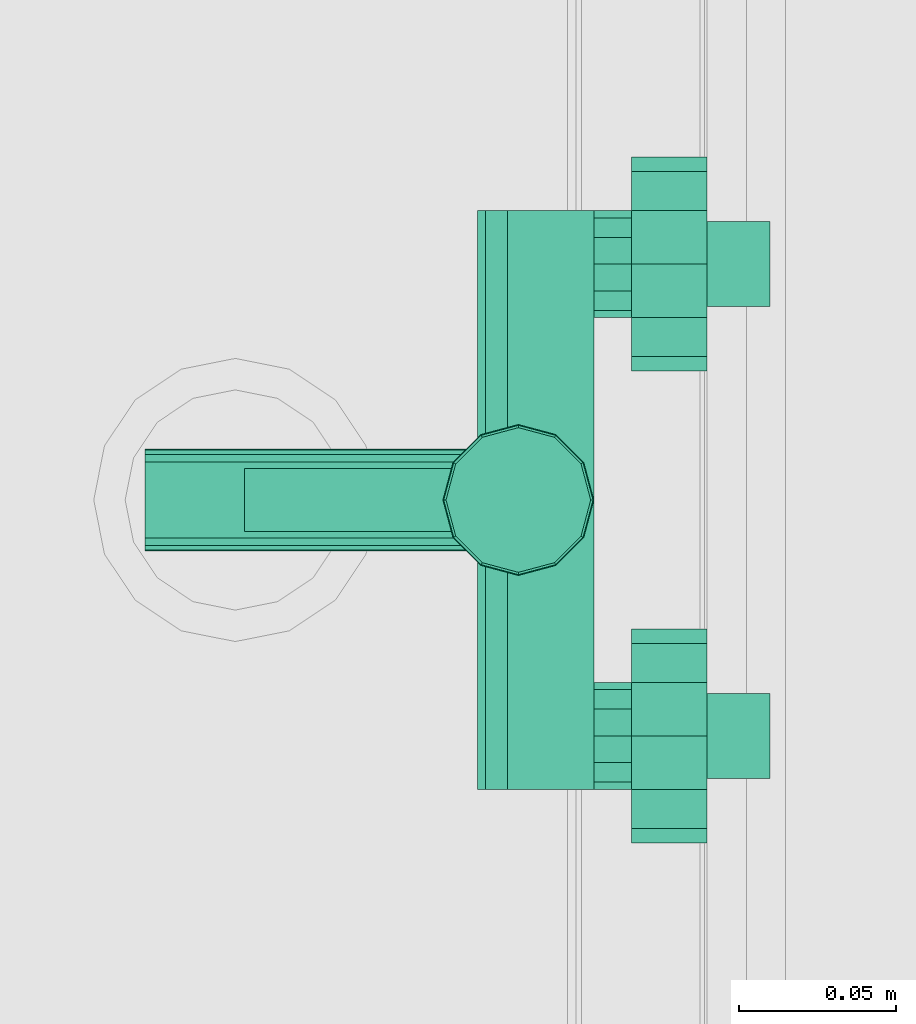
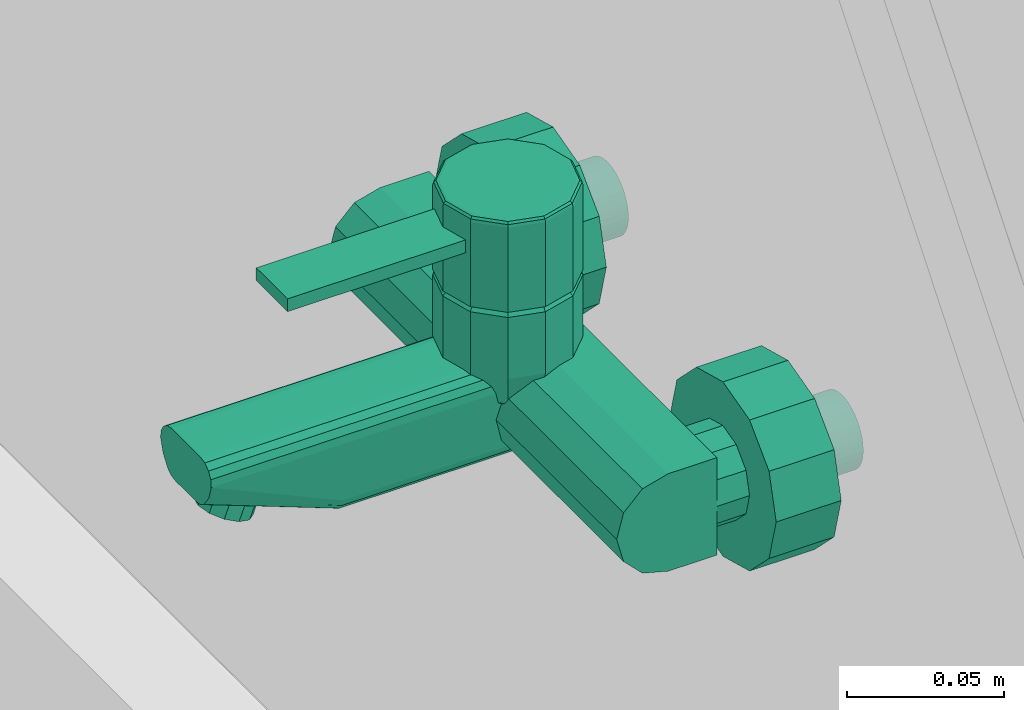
# One storey, part 109 of 137: 1 flow storage device.
"""IFC2X3 building model written with IfcOpenShell, lengths in millimetres."""

from ifc_helpers import new_model, entity, si_unit, converted_unit, derived_unit, money_unit, direction, frame, origin_with_axes, place, context, subcontext, project, spatial, open_shell, faceted_brep, surface_model, source, transform, mapped, type_object, type_shapes, element, save


model = new_model("IFC2X3")

# Units and contexts
model_context = context("Model", 3, precision=0.01, world=origin_with_axes(), true_north=direction((0.0, 1.0)))
body_context = subcontext(model_context, "Body", "Model", "MODEL_VIEW")
ifc_project = project(units=[si_unit("LENGTHUNIT", "METRE", prefix="MILLI"), si_unit("AREAUNIT", "SQUARE_METRE"), si_unit("VOLUMEUNIT", "CUBIC_METRE"), converted_unit("PLANEANGLEUNIT", "DEGREE", entity("IfcPlaneAngleMeasure", 0.0174532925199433), si_unit("PLANEANGLEUNIT", "RADIAN"), dimensions=[0, 0, 0, 0, 0, 0, 0]), money_unit("EUR"), converted_unit("TIMEUNIT", "Year", entity("IfcTimeMeasure", 31556926.0), si_unit("TIMEUNIT", "SECOND"), dimensions=[0, 0, 1, 0, 0, 0, 0]), si_unit("MASSUNIT", "GRAM", prefix="KILO"), si_unit("THERMODYNAMICTEMPERATUREUNIT", "DEGREE_CELSIUS"), si_unit("LUMINOUSINTENSITYUNIT", "LUMEN"), si_unit("ENERGYUNIT", "JOULE", prefix="MEGA"), derived_unit("THERMALCONDUCTANCEUNIT", [(si_unit("POWERUNIT", "WATT"), 1), (si_unit("LENGTHUNIT", "METRE"), -1), (si_unit("THERMODYNAMICTEMPERATUREUNIT", "KELVIN"), -1)]), derived_unit("SPECIFICHEATCAPACITYUNIT", [(si_unit("ENERGYUNIT", "JOULE"), 1), (si_unit("MASSUNIT", "GRAM", prefix="KILO"), -1), (si_unit("THERMODYNAMICTEMPERATUREUNIT", "KELVIN"), -1)]), derived_unit("MASSDENSITYUNIT", [(si_unit("MASSUNIT", "GRAM", prefix="KILO"), 1), (si_unit("VOLUMEUNIT", "CUBIC_METRE"), -1)])], contexts=[model_context])

# Site, building, storey
site_placement = place(None, origin_with_axes())
site = spatial("IfcSite", under=ifc_project, at=site_placement, Name="Site", CompositionType="ELEMENT")
building_placement = place(site_placement, origin_with_axes())
building = spatial("IfcBuilding", under=site, at=building_placement, Name="Naam gebouw", CompositionType="ELEMENT")
storey_placement = place(building_placement, frame((0.0, 0.0, 3960.0), z_axis=(0.0, 0.0, 1.0), x_axis=(1.0, 0.0, 0.0)))
storey = spatial("IfcBuildingStorey", under=building, at=storey_placement, Name="1e verdieping", CompositionType="ELEMENT", Elevation=3960.0)

# Flow storage device
tank_type = type_object("IfcTankType", Name="Kraan wand 26", PredefinedType="EXPANSION")
shared_shape = source(origin_with_axes(), body_context, "Body", "SurfaceModel", [
    faceted_brep([(-45.55513627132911, 0.0, 1183.0), (-58.00000000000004, 0.0, 1170.555136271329), (-75.00000000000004, 0.0, 1166.0), (-92.00000000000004, 0.0, 1170.555136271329), (-104.4448637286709, 0.0, 1183.0), (-109.0, 0.0, 1200.0), (-104.4448637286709, 0.0, 1217.0), (-92.0, 0.0, 1229.444863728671), (-75.0, 0.0, 1234.0), (-58.0, 0.0, 1229.444863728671), (-45.5551362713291, 0.0, 1217.0), (-41.00000000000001, 0.0, 1200.0), (-45.55513627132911, -24.0, 1183.0), (-58.00000000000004, -24.0, 1170.555136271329), (-75.00000000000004, -24.0, 1166.0), (-92.00000000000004, -24.0, 1170.555136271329), (-104.4448637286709, -24.0, 1183.0), (-109.0, -24.0, 1200.0), (-104.4448637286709, -24.0, 1217.0), (-92.0, -24.0, 1229.444863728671), (-75.0, -24.0, 1234.0), (-58.0, -24.0, 1229.444863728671), (-45.5551362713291, -24.0, 1217.0), (-41.00000000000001, -24.0, 1200.0)], [[[0, 1, 2, 3, 4, 5, 6, 7, 8, 9, 10, 11]], [[1, 0, 12, 13]], [[2, 1, 13, 14]], [[3, 2, 14, 15]], [[4, 3, 15, 16]], [[5, 4, 16, 17]], [[6, 5, 17, 18]], [[7, 6, 18, 19]], [[8, 7, 19, 20]], [[9, 8, 20, 21]], [[10, 9, 21, 22]], [[11, 10, 22, 23]], [[0, 11, 23, 12]], [[12, 23, 22, 21, 20, 19, 18, 17, 16, 15, 14, 13]]]),
    faceted_brep([(-60.27756813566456, -24.0, 1191.5), (-66.50000000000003, -24.0, 1185.277568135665), (-75.00000000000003, -24.0, 1183.0), (-83.50000000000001, -24.0, 1185.277568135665), (-89.72243186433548, -24.0, 1191.5), (-92.00000000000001, -24.0, 1200.0), (-89.72243186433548, -24.0, 1208.5), (-83.5, -24.0, 1214.722431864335), (-75.00000000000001, -24.0, 1217.0), (-66.5, -24.0, 1214.722431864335), (-60.27756813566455, -24.0, 1208.5), (-58.00000000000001, -24.0, 1200.0), (-60.27756813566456, -36.00000000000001, 1191.5), (-66.50000000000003, -36.00000000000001, 1185.277568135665), (-75.00000000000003, -36.00000000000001, 1183.0), (-83.50000000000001, -36.00000000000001, 1185.277568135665), (-89.72243186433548, -36.00000000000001, 1191.5), (-92.00000000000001, -36.00000000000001, 1200.0), (-89.72243186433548, -36.00000000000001, 1208.5), (-83.5, -36.0, 1214.722431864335), (-75.00000000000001, -36.0, 1217.0), (-66.5, -36.0, 1214.722431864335), (-60.27756813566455, -36.00000000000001, 1208.5), (-58.00000000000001, -36.00000000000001, 1200.0)], [[[0, 1, 2, 3, 4, 5, 6, 7, 8, 9, 10, 11]], [[1, 0, 12, 13]], [[2, 1, 13, 14]], [[3, 2, 14, 15]], [[4, 3, 15, 16]], [[5, 4, 16, 17]], [[6, 5, 17, 18]], [[7, 6, 18, 19]], [[8, 7, 19, 20]], [[9, 8, 20, 21]], [[10, 9, 21, 22]], [[11, 10, 22, 23]], [[0, 11, 23, 12]], [[12, 23, 22, 21, 20, 19, 18, 17, 16, 15, 14, 13]]]),
    faceted_brep([(45.55513627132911, 0.0, 1183.0), (41.00000000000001, 0.0, 1200.0), (45.5551362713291, 0.0, 1217.0), (58.0, 0.0, 1229.444863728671), (75.0, 0.0, 1234.0), (92.0, 0.0, 1229.444863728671), (104.4448637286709, 0.0, 1217.0), (109.0, 0.0, 1200.0), (104.4448637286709, 0.0, 1183.0), (92.00000000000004, 0.0, 1170.555136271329), (75.00000000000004, 0.0, 1166.0), (58.00000000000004, 0.0, 1170.555136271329), (45.55513627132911, -24.0, 1183.0), (41.00000000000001, -24.0, 1200.0), (45.5551362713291, -24.0, 1217.0), (58.0, -24.0, 1229.444863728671), (75.0, -24.0, 1234.0), (92.0, -24.0, 1229.444863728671), (104.4448637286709, -24.0, 1217.0), (109.0, -24.0, 1200.0), (104.4448637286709, -24.0, 1183.0), (92.00000000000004, -24.0, 1170.555136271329), (75.00000000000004, -24.0, 1166.0), (58.00000000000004, -24.0, 1170.555136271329)], [[[0, 1, 2, 3, 4, 5, 6, 7, 8, 9, 10, 11]], [[0, 12, 13, 1]], [[1, 13, 14, 2]], [[2, 14, 15, 3]], [[3, 15, 16, 4]], [[4, 16, 17, 5]], [[5, 17, 18, 6]], [[6, 18, 19, 7]], [[7, 19, 20, 8]], [[8, 20, 21, 9]], [[9, 21, 22, 10]], [[10, 22, 23, 11]], [[11, 23, 12, 0]], [[12, 23, 22, 21, 20, 19, 18, 17, 16, 15, 14, 13]]]),
    faceted_brep([(60.27756813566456, -24.0, 1191.5), (58.00000000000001, -24.0, 1200.0), (60.27756813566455, -24.0, 1208.5), (66.5, -24.0, 1214.722431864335), (75.00000000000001, -24.0, 1217.0), (83.5, -24.0, 1214.722431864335), (89.72243186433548, -24.0, 1208.5), (92.00000000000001, -24.0, 1200.0), (89.72243186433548, -24.0, 1191.5), (83.50000000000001, -24.0, 1185.277568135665), (75.00000000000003, -24.0, 1183.0), (66.50000000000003, -24.0, 1185.277568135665), (60.27756813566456, -36.00000000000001, 1191.5), (58.00000000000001, -36.00000000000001, 1200.0), (60.27756813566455, -36.00000000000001, 1208.5), (66.5, -36.0, 1214.722431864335), (75.00000000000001, -36.0, 1217.0), (83.5, -36.0, 1214.722431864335), (89.72243186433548, -36.00000000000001, 1208.5), (92.00000000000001, -36.00000000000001, 1200.0), (89.72243186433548, -36.00000000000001, 1191.5), (83.50000000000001, -36.00000000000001, 1185.277568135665), (75.00000000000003, -36.00000000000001, 1183.0), (66.50000000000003, -36.00000000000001, 1185.277568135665)], [[[0, 1, 2, 3, 4, 5, 6, 7, 8, 9, 10, 11]], [[0, 12, 13, 1]], [[1, 13, 14, 2]], [[2, 14, 15, 3]], [[3, 15, 16, 4]], [[4, 16, 17, 5]], [[5, 17, 18, 6]], [[6, 18, 19, 7]], [[7, 19, 20, 8]], [[8, 20, 21, 9]], [[9, 21, 22, 10]], [[10, 22, 23, 11]], [[11, 23, 12, 0]], [[12, 23, 22, 21, 20, 19, 18, 17, 16, 15, 14, 13]]]),
    faceted_brep([(22.39230484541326, -54.0, 1219.0), (23.56921938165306, -59.99999999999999, 1217.392304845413), (22.3801085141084, -63.5, 1216.454482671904), (92.0, -63.5, 1216.454482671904), (92.0, -54.0, 1219.0), (24.0, -59.99999999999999, 1219.0), (20.78460969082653, -72.0, 1219.0), (18.42264973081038, -70.63632178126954, 1208.821367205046), (18.65321248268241, -70.45448267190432, 1209.5), (92.0, -70.45448267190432, 1209.5), (92.0, -36.00000000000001, 1181.0), (92.0, -36.00000000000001, 1219.0), (92.0, -73.00000000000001, 1200.0), (92.0, -70.45448267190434, 1190.5), (92.0, -63.5, 1183.545517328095), (92.0, -54.00000000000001, 1181.0), (20.78460969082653, -47.99999999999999, 1219.0), (0.0, -36.00000000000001, 1219.0), (12.0, -39.21539030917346, 1219.0), (20.78460969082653, -47.99999999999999, 1243.0), (24.0, -59.99999999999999, 1243.0), (20.78460969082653, -72.0, 1243.0), (17.26794919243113, -71.12435565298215, 1207.0), (12.00000000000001, -80.78460969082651, 1219.0), (11.92314238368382, -80.65148839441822, 1218.426326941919), (12.07189135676, -80.49116546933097, 1218.39470631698), (14.42686544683, -77.50984837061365, 1216.68350539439), (15.88213414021, -75.13176694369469, 1214.16233412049), (16.18602173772, -73.76818909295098, 1211.26720650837), (15.73684210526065, -72.65546274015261, 1207.0), (15.6314139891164, -71.39272474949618, 1205.998432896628), (14.99999999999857, -73.00000000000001, 1200.0), (-92.0, -36.00000000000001, 1181.0), (-92.0, -36.00000000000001, 1219.0), (14.00000000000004, -70.45448267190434, 1190.5), (12.93483876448, -64.77581392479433, 1184.82133125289), (11.95567316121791, -63.5, 1183.545517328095), (13.65970594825, -67.22168918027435, 1187.26720650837), (9.206486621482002, -55.73480068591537, 1181.46483844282), (6.698167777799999, -54.00000000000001, 1181.0), (11.38167317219, -60.70880215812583, 1182.79761812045), (-6.698167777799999, -54.00000000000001, 1181.0), (-92.0, -54.00000000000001, 1181.0), (6.698167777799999, -128.7, 1181.0), (-6.698167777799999, -128.7, 1181.0), (0.0, -36.00000000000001, 1243.0), (12.0, -39.21539030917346, 1243.0), (19.05255888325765, -48.99999999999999, 1245.0), (22.0, -59.99999999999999, 1245.0), (19.05255888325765, -71.0, 1245.0), (12.00000000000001, -80.78460969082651, 1243.0), (9.224483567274, -81.52830707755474, 1219.0), (9.224483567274, -178.7, 1219.0), (12.07189135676, -178.7, 1218.39470631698), (14.42686544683, -178.7, 1216.68350539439), (15.88213414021, -178.7, 1214.16233412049), (16.18602173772, -178.7, 1211.26720650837), (13.65970594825, -128.7, 1187.26720650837), (-92.0, -54.0, 1219.0), (-92.0, -63.5, 1183.545517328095), (-92.0, -70.45448267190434, 1190.5), (-92.0, -73.00000000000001, 1200.0), (-92.0, -70.45448267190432, 1209.5), (-92.0, -63.5, 1216.454482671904), (-12.00000000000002, -39.21539030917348, 1219.0), (-22.39230484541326, -54.0, 1219.0), (-20.78460969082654, -48.00000000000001, 1219.0), (12.93483876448, -128.7, 1184.82133125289), (11.38167317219, -128.7, 1182.79761812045), (9.206486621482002, -128.7, 1181.46483844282), (-11.38167317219, -60.70880215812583, 1182.79761812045), (-11.95567316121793, -63.5, 1183.545517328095), (-9.206486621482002, -55.73480068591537, 1181.46483844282), (-6.698167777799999, -156.6122297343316, 1191.606647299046), (6.698167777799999, -156.6122297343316, 1191.606647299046), (5.000000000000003, -155.02481037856, 1191.003427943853), (0.0, -153.7724378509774, 1190.527526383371), (-4.999999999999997, -155.02481037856, 1191.003427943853), (-9.206486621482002, -128.7, 1181.46483844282), (-12.00000000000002, -39.21539030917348, 1243.0), (0.0, -38.00000000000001, 1245.0), (11.0, -40.94744111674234, 1245.0), (-20.78460969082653, -47.99999999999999, 1245.0), (-12.0, -39.21539030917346, 1245.0), (0.0, -36.00000000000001, 1245.0), (12.00000000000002, -39.21539030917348, 1245.0), (20.78460969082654, -48.00000000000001, 1245.0), (24.0, -60.00000000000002, 1245.0), (20.78460969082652, -72.00000000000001, 1245.0), (11.99999999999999, -80.78460969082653, 1245.0), (0.0, -83.99999999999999, 1245.0), (-12.00000000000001, -80.78460969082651, 1245.0), (-20.78460969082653, -72.0, 1245.0), (-24.0, -59.99999999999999, 1245.0), (11.00000000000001, -79.05255888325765, 1245.0), (-11.00000000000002, -40.94744111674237, 1245.0), (-19.05255888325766, -49.00000000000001, 1245.0), (-22.0, -60.00000000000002, 1245.0), (-19.05255888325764, -71.00000000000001, 1245.0), (-10.99999999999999, -79.05255888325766, 1245.0), (0.0, -81.99999999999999, 1245.0), (0.0, -83.99999999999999, 1243.0), (0.0, -83.99999999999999, 1219.0), (-15.88213414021, -178.7, 1214.16233412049), (-16.18602173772, -178.7, 1211.26720650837), (-14.65970594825, -178.7, 1206.26720650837), (-12.93483876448, -178.7, 1203.82133125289), (-11.38167317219, -178.7, 1201.79761812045), (-9.206486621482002, -178.7, 1200.46483844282), (-6.698167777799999, -178.7, 1200.0), (6.698167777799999, -178.7, 1200.0), (9.206486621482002, -178.7, 1200.46483844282), (11.38167317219, -178.7, 1201.79761812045), (12.93483876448, -178.7, 1203.82133125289), (14.65970594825, -178.7, 1206.26720650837), (-9.224483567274, -178.7, 1219.0), (-12.07189135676, -178.7, 1218.39470631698), (-14.42686544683, -178.7, 1216.68350539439), (-9.224483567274, -81.52830707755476, 1219.0), (-13.65970594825, -67.22168918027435, 1187.26720650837), (-14.00000000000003, -70.45448267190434, 1190.5), (-12.93483876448, -64.77581392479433, 1184.82133125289), (-14.99999999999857, -73.00000000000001, 1200.0), (-18.42264973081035, -70.63632178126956, 1208.821367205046), (-18.65321248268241, -70.45448267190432, 1209.5), (-15.63141398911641, -71.39272474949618, 1205.998432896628), (-17.26794919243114, -71.12435565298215, 1207.0), (-22.38010851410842, -63.5, 1216.454482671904), (-23.56921938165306, -60.00000000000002, 1217.392304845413), (-24.0, -60.00000000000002, 1219.0), (-24.0, -60.00000000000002, 1243.0), (-20.78460969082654, -48.00000000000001, 1243.0), (9.206486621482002, -160.1976250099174, 1193.433935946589), (8.660254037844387, -158.3256179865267, 1192.621346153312), (9.206486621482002, -165.7342214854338, 1195.537842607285), (10.0, -162.8044792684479, 1194.910741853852), (-11.38167317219, -128.7, 1182.79761812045), (-12.93483876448, -128.7, 1184.82133125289), (-9.206486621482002, -160.1976250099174, 1193.433935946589), (-8.660254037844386, -158.3256179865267, 1192.621346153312), (8.660254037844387, -160.222444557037, 1187.629697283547), (5.000000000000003, -156.8008991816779, 1186.329510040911), (0.0, -155.5485266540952, 1185.85360848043), (-4.999999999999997, -156.8008991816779, 1186.329510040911), (-8.660254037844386, -160.222444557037, 1187.629697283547), (-20.78460969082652, -47.99999999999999, 1278.0), (-12.0, -39.21539030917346, 1278.0), (0.0, -36.00000000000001, 1278.0), (12.00000000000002, -39.21539030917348, 1278.0), (20.78460969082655, -48.00000000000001, 1278.0), (24.0, -60.00000000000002, 1278.0), (20.78460969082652, -72.00000000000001, 1278.0), (11.99999999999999, -80.78460969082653, 1278.0), (0.0, -83.99999999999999, 1278.0), (0.0, -83.99999999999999, 1270.0), (10.0, -81.32050807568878, 1270.0), (10.0, -81.32050807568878, 1265.0), (0.0, -83.99999999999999, 1265.0), (-10.0, -81.32050807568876, 1265.0), (-10.0, -81.32050807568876, 1270.0), (-12.00000000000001, -80.78460969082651, 1278.0), (-20.78460969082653, -72.0, 1278.0), (-24.0, -59.99999999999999, 1278.0), (-20.78460969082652, -72.00000000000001, 1243.0), (-11.99999999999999, -80.78460969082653, 1243.0), (-11.99999999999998, -80.78460969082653, 1219.0), (-15.88213414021, -75.1317669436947, 1214.16233412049), (-16.18602173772, -73.76818909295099, 1211.26720650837), (-16.18602173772, -128.7, 1211.26720650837), (-13.65970594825, -128.7, 1187.26720650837), (-10.0, -162.8044792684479, 1194.910741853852), (-9.206486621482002, -165.7342214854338, 1195.537842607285), (-8.66025403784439, -167.6734537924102, 1196.173523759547), (-6.698167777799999, -169.6283175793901, 1196.552760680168), (0.0, -172.4681094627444, 1197.631881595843), (4.999999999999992, -171.2157369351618, 1197.155980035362), (6.698167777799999, -169.6283175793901, 1196.552760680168), (-5.000000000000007, -171.2157369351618, 1197.155980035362), (8.660254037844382, -167.6734537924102, 1196.173523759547), (-11.92314238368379, -80.65148839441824, 1218.426326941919), (-12.07189135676, -80.49116546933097, 1218.39470631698), (-14.42686544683, -77.50984837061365, 1216.68350539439), (-15.73684210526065, -72.65546274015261, 1207.0), (-20.78460969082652, -72.00000000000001, 1219.0), (10.0, -164.8963624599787, 1189.405786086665), (8.660254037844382, -169.5702803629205, 1191.181874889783), (-10.0, -164.8963624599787, 1189.405786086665), (4.999999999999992, -172.9918257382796, 1192.48206213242), (0.0, -174.2441982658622, 1192.957963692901), (-5.000000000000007, -172.9918257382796, 1192.48206213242), (-8.66025403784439, -169.5702803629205, 1191.181874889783), (-20.55255888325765, -48.13397459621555, 1279.0), (-11.86602540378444, -39.44744111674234, 1279.0), (0.0, -36.26794919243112, 1279.0), (11.86602540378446, -39.44744111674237, 1279.0), (20.55255888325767, -48.13397459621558, 1279.0), (23.73205080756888, -60.00000000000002, 1279.0), (20.55255888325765, -71.86602540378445, 1279.0), (11.86602540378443, -80.55255888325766, 1279.0), (10.0, -147.0, 1270.0), (-10.0, -147.0, 1270.0), (10.0, -147.0, 1265.0), (-10.0, -147.0, 1265.0), (0.0, -83.73205080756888, 1279.0), (-11.86602540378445, -80.55255888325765, 1279.0), (-20.55255888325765, -71.86602540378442, 1279.0), (-23.73205080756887, -59.99999999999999, 1279.0), (-19.91858428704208, -48.49999999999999, 1279.732050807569), (-11.5, -40.08141571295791, 1279.732050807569), (0.0, -37.00000000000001, 1279.732050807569), (11.50000000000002, -40.08141571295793, 1279.732050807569), (19.9185842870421, -48.50000000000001, 1279.732050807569), (23.0, -60.00000000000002, 1279.732050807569), (19.91858428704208, -71.50000000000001, 1279.732050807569), (11.49999999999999, -79.9185842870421, 1279.732050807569), (0.0, -82.99999999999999, 1279.732050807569), (-11.50000000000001, -79.91858428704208, 1279.732050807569), (-19.91858428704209, -71.5, 1279.732050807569), (-23.0, -59.99999999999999, 1279.732050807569), (-19.05255888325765, -48.99999999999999, 1280.0), (-11.0, -40.94744111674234, 1280.0), (0.0, -38.00000000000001, 1280.0), (11.00000000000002, -40.94744111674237, 1280.0), (19.05255888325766, -49.00000000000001, 1280.0), (22.0, -60.00000000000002, 1280.0), (19.05255888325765, -71.00000000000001, 1280.0), (10.99999999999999, -79.05255888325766, 1280.0), (0.0, -81.99999999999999, 1280.0), (-11.00000000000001, -79.05255888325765, 1280.0), (-19.05255888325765, -71.0, 1280.0), (-22.0, -59.99999999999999, 1280.0), (0.0, -60.0, 1280.0)], [[[0, 1, 2, 3, 4]], [[1, 0, 5]], [[2, 1, 5, 6, 7, 8]], [[2, 8, 9, 3]], [[10, 11, 4, 3, 9, 12, 13, 14, 15]], [[16, 0, 4, 11, 17, 18]], [[0, 16, 19, 20, 5]], [[20, 21, 6, 5]], [[22, 7, 6, 23, 24, 25, 26, 27, 28, 29]], [[30, 31, 12, 9, 8, 7, 22]], [[10, 32, 33, 17, 11]], [[31, 34, 13, 12]], [[35, 36, 14, 13, 34, 37]], [[38, 39, 15, 14, 36, 40]], [[41, 42, 32, 10, 15, 39, 43, 44]], [[18, 17, 45, 46]], [[16, 18, 46, 19]], [[19, 47, 48, 20]], [[20, 48, 49, 21]], [[21, 50, 23, 6]], [[23, 51, 24]], [[52, 53, 25, 24, 51]], [[53, 54, 26, 25]], [[54, 55, 27, 26]], [[56, 28, 27, 55]], [[31, 30, 29, 28, 56, 57, 37, 34]], [[30, 22, 29]], [[58, 33, 32, 42, 59, 60, 61, 62, 63]], [[64, 17, 33, 58, 65, 66]], [[36, 35, 67, 68, 40]], [[35, 37, 57, 67]], [[39, 38, 69, 43]], [[38, 40, 68, 69]], [[70, 71, 59, 42, 41, 72]], [[73, 44, 43, 74, 75, 76, 77]], [[72, 41, 44, 78]], [[17, 64, 79, 45]], [[45, 80, 81, 46]], [[46, 81, 47, 19]], [[82, 83, 84, 85, 86, 87, 88, 89, 90, 91, 92, 93], [94, 49, 48, 47, 81, 80, 95, 96, 97, 98, 99, 100]], [[21, 49, 94, 50]], [[101, 102, 51, 23, 50]], [[103, 104, 105, 106, 107, 108, 109, 110, 111, 112, 113, 114, 56, 55, 54, 53, 52, 115, 116, 117]], [[115, 52, 51, 102, 118]], [[56, 114, 57]], [[119, 120, 60, 59, 71, 121]], [[120, 122, 61, 60]], [[123, 124, 62, 61, 122, 125, 126]], [[124, 127, 63, 62]], [[128, 65, 58, 63, 127]], [[66, 65, 129, 130, 131]], [[64, 66, 131, 79]], [[112, 68, 67, 113]], [[114, 67, 57]], [[74, 43, 69, 132, 133]], [[132, 69, 68, 112, 111, 134, 135]], [[71, 70, 136, 137, 121]], [[70, 72, 78, 136]], [[138, 78, 44, 73, 139]], [[75, 74, 133, 140, 141]], [[142, 76, 75, 141]], [[143, 77, 76, 142]], [[139, 73, 77, 143, 144]], [[79, 95, 80, 45]], [[83, 82, 145, 146]], [[84, 83, 146, 147]], [[85, 84, 147, 148]], [[86, 85, 148, 149]], [[87, 86, 149, 150]], [[88, 87, 150, 151]], [[89, 88, 151, 152]], [[153, 154, 155, 156, 157, 90, 89, 152]], [[158, 159, 154, 153, 160, 91, 90, 157]], [[92, 91, 160, 161]], [[93, 92, 161, 162]], [[82, 93, 162, 145]], [[131, 96, 95, 79]], [[130, 97, 96, 131]], [[163, 98, 97, 130]], [[164, 99, 98, 163]], [[101, 100, 99, 164]], [[50, 94, 100, 101]], [[165, 118, 102, 101, 164]], [[104, 103, 166, 167, 168]], [[105, 104, 168]], [[106, 105, 169]], [[106, 137, 136, 107]], [[107, 136, 78, 138, 170, 171, 108]], [[171, 172, 173, 109, 108]], [[174, 175, 176, 110, 109, 173, 177]], [[176, 178, 134, 111, 110]], [[114, 113, 67]], [[116, 115, 118, 179, 180]], [[117, 116, 180, 181]], [[103, 117, 181, 166]], [[120, 119, 169, 168, 167, 182, 125, 122]], [[119, 121, 137, 169]], [[124, 123, 183, 129, 128, 127]], [[126, 125, 182]], [[123, 126, 182, 167, 166, 181, 180, 179, 165, 183]], [[65, 128, 129]], [[163, 130, 129, 183]], [[133, 132, 135, 184, 140]], [[135, 134, 178, 185, 184]], [[170, 138, 139, 144, 186]], [[140, 184, 185, 187, 188, 189, 190, 186, 144, 143, 142, 141]], [[146, 145, 191, 192]], [[147, 146, 192, 193]], [[148, 147, 193, 194]], [[149, 148, 194, 195]], [[150, 149, 195, 196]], [[151, 150, 196, 197]], [[152, 151, 197, 198]], [[199, 155, 154, 159, 200]], [[201, 156, 155, 199]], [[158, 157, 156, 201, 202]], [[153, 152, 198, 203]], [[200, 159, 158, 202]], [[160, 153, 203, 204]], [[161, 160, 204, 205]], [[162, 161, 205, 206]], [[145, 162, 206, 191]], [[164, 163, 183, 165]], [[165, 179, 118]], [[105, 168, 169]], [[106, 169, 137]], [[172, 171, 170, 186, 190]], [[177, 173, 172, 190, 189]], [[187, 175, 174, 188]], [[178, 176, 175, 187, 185]], [[188, 174, 177, 189]], [[192, 191, 207, 208]], [[193, 192, 208, 209]], [[194, 193, 209, 210]], [[195, 194, 210, 211]], [[196, 195, 211, 212]], [[197, 196, 212, 213]], [[198, 197, 213, 214]], [[199, 200, 202, 201]], [[203, 198, 214, 215]], [[204, 203, 215, 216]], [[205, 204, 216, 217]], [[206, 205, 217, 218]], [[191, 206, 218, 207]], [[208, 207, 219, 220]], [[209, 208, 220, 221]], [[210, 209, 221, 222]], [[211, 210, 222, 223]], [[212, 211, 223, 224]], [[213, 212, 224, 225]], [[214, 213, 225, 226]], [[215, 214, 226, 227]], [[216, 215, 227, 228]], [[217, 216, 228, 229]], [[218, 217, 229, 230]], [[207, 218, 230, 219]], [[220, 219, 231]], [[221, 220, 231]], [[222, 221, 231]], [[223, 222, 231]], [[224, 223, 231]], [[225, 224, 231]], [[226, 225, 231]], [[227, 226, 231]], [[228, 227, 231]], [[229, 228, 231]], [[230, 229, 231]], [[219, 230, 231]]]),
    surface_model("IfcShellBasedSurfaceModel", [(-75.0, 0.0, 1186.5), (-77.34425039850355, 0.0, 1186.705095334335), (-77.34425039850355, 20.0, 1186.705095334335), (-75.0, 20.0, 1186.5), (-79.61727193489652, 0.0, 1187.31414961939), (-79.61727193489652, 20.0, 1187.31414961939), (-72.65574960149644, 0.0, 1186.705095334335), (-72.65574960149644, 20.0, 1186.705095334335), (-81.74999999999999, 0.0, 1188.30865704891), (-81.74999999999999, 20.0, 1188.30865704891), (-70.38272806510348, 0.0, 1187.31414961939), (-70.38272806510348, 20.0, 1187.31414961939), (-83.67763273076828, 0.0, 1189.658400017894), (-83.67763273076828, 20.0, 1189.658400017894), (-68.25, 0.0, 1188.30865704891), (-68.25, 20.0, 1188.30865704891), (-85.34159998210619, 0.0, 1191.322367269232), (-85.34159998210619, 20.0, 1191.322367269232), (-66.32236726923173, 0.0, 1189.658400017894), (-66.32236726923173, 20.0, 1189.658400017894), (-86.69134295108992, 0.0, 1193.25), (-86.69134295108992, 20.0, 1193.25), (-64.65840001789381, 0.0, 1191.322367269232), (-64.65840001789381, 20.0, 1191.322367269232), (-87.68585038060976, 0.0, 1195.382728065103), (-87.68585038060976, 20.0, 1195.382728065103), (-63.30865704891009, 0.0, 1193.25), (-63.30865704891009, 20.0, 1193.25), (-88.2949046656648, 0.0, 1197.655749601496), (-88.2949046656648, 20.0, 1197.655749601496), (-62.31414961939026, 0.0, 1195.382728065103), (-62.31414961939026, 20.0, 1195.382728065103), (-88.5, 0.0, 1200.0), (-88.5, 20.0, 1200.0), (-61.7050953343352, 0.0, 1197.655749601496), (-61.7050953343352, 20.0, 1197.655749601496), (-88.2949046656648, 0.0, 1202.344250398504), (-88.2949046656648, 20.0, 1202.344250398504), (-61.50000000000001, 0.0, 1200.0), (-61.50000000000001, 20.0, 1200.0), (-87.68585038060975, 0.0, 1204.617271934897), (-87.68585038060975, 20.0, 1204.617271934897), (-61.7050953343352, 0.0, 1202.344250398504), (-61.7050953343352, 20.0, 1202.344250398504), (-86.69134295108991, 0.0, 1206.75), (-86.69134295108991, 20.0, 1206.75), (-62.31414961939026, 0.0, 1204.617271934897), (-62.31414961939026, 20.0, 1204.617271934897), (-85.34159998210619, 0.0, 1208.677632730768), (-85.34159998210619, 20.0, 1208.677632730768), (-63.30865704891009, 0.0, 1206.75), (-63.30865704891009, 20.0, 1206.75), (-83.67763273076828, 0.0, 1210.341599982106), (-83.67763273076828, 20.0, 1210.341599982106), (-64.6584000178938, 0.0, 1208.677632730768), (-64.6584000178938, 20.0, 1208.677632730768), (-81.74999999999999, 0.0, 1211.69134295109), (-81.74999999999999, 20.0, 1211.69134295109), (-66.32236726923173, 0.0, 1210.341599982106), (-66.32236726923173, 20.0, 1210.341599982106), (-79.61727193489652, 0.0, 1212.68585038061), (-79.61727193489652, 20.0, 1212.68585038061), (-68.25, 0.0, 1211.69134295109), (-68.25, 20.0, 1211.69134295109), (-77.34425039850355, 0.0, 1213.294904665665), (-77.34425039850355, 20.0, 1213.294904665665), (-70.38272806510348, 0.0, 1212.68585038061), (-70.38272806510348, 20.0, 1212.68585038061), (-75.0, 0.0, 1213.5), (-75.0, 20.0, 1213.5), (-72.65574960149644, 0.0, 1213.294904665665), (-72.65574960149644, 20.0, 1213.294904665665)], [open_shell([[[0, 1, 2, 3]], [[1, 4, 5, 2]], [[6, 0, 3, 7]], [[4, 8, 9, 5]], [[10, 6, 7, 11]], [[8, 12, 13, 9]], [[14, 10, 11, 15]], [[12, 16, 17, 13]], [[18, 14, 15, 19]], [[16, 20, 21, 17]], [[22, 18, 19, 23]], [[20, 24, 25, 21]], [[26, 22, 23, 27]], [[24, 28, 29, 25]], [[30, 26, 27, 31]], [[28, 32, 33, 29]], [[34, 30, 31, 35]], [[32, 36, 37, 33]], [[38, 34, 35, 39]], [[36, 40, 41, 37]], [[42, 38, 39, 43]], [[40, 44, 45, 41]], [[46, 42, 43, 47]], [[44, 48, 49, 45]], [[50, 46, 47, 51]], [[48, 52, 53, 49]], [[54, 50, 51, 55]], [[52, 56, 57, 53]], [[58, 54, 55, 59]], [[56, 60, 61, 57]], [[62, 58, 59, 63]], [[60, 64, 65, 61]], [[66, 62, 63, 67]], [[64, 68, 69, 65]], [[70, 66, 67, 71]], [[68, 70, 71, 69]]])]),
    surface_model("IfcShellBasedSurfaceModel", [(75.0, 0.0, 1186.5), (72.65574960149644, 0.0, 1186.705095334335), (72.65574960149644, 20.0, 1186.705095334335), (75.0, 20.0, 1186.5), (70.38272806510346, 0.0, 1187.31414961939), (70.38272806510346, 20.0, 1187.31414961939), (77.34425039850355, 0.0, 1186.705095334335), (77.34425039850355, 20.0, 1186.705095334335), (68.25, 0.0, 1188.30865704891), (68.25, 20.0, 1188.30865704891), (79.61727193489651, 0.0, 1187.31414961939), (79.61727193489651, 20.0, 1187.31414961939), (66.32236726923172, 0.0, 1189.658400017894), (66.32236726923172, 20.0, 1189.658400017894), (81.74999999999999, 0.0, 1188.30865704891), (81.74999999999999, 20.0, 1188.30865704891), (64.6584000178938, 0.0, 1191.322367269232), (64.6584000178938, 20.0, 1191.322367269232), (83.67763273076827, 0.0, 1189.658400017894), (83.67763273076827, 20.0, 1189.658400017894), (63.30865704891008, 0.0, 1193.25), (63.30865704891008, 20.0, 1193.25), (85.34159998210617, 0.0, 1191.322367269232), (85.34159998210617, 20.0, 1191.322367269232), (62.31414961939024, 0.0, 1195.382728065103), (62.31414961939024, 20.0, 1195.382728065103), (86.69134295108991, 0.0, 1193.25), (86.69134295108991, 20.0, 1193.25), (61.70509533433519, 0.0, 1197.655749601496), (61.70509533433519, 20.0, 1197.655749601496), (87.68585038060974, 0.0, 1195.382728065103), (87.68585038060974, 20.0, 1195.382728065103), (61.5, 0.0, 1200.0), (61.5, 20.0, 1200.0), (88.29490466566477, 0.0, 1197.655749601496), (88.29490466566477, 20.0, 1197.655749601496), (61.70509533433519, 0.0, 1202.344250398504), (61.70509533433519, 20.0, 1202.344250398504), (88.49999999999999, 0.0, 1200.0), (88.49999999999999, 20.0, 1200.0), (62.31414961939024, 0.0, 1204.617271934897), (62.31414961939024, 20.0, 1204.617271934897), (88.29490466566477, 0.0, 1202.344250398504), (88.29490466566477, 20.0, 1202.344250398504), (63.30865704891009, 0.0, 1206.75), (63.30865704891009, 20.0, 1206.75), (87.68585038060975, 0.0, 1204.617271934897), (87.68585038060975, 20.0, 1204.617271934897), (64.6584000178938, 0.0, 1208.677632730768), (64.6584000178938, 20.0, 1208.677632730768), (86.69134295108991, 0.0, 1206.75), (86.69134295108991, 20.0, 1206.75), (66.32236726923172, 0.0, 1210.341599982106), (66.32236726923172, 20.0, 1210.341599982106), (85.34159998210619, 0.0, 1208.677632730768), (85.34159998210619, 20.0, 1208.677632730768), (68.25, 0.0, 1211.69134295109), (68.25, 20.0, 1211.69134295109), (83.67763273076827, 0.0, 1210.341599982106), (83.67763273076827, 20.0, 1210.341599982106), (70.38272806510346, 0.0, 1212.68585038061), (70.38272806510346, 20.0, 1212.68585038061), (81.74999999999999, 0.0, 1211.69134295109), (81.74999999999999, 20.0, 1211.69134295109), (72.65574960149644, 0.0, 1213.294904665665), (72.65574960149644, 20.0, 1213.294904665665), (79.61727193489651, 0.0, 1212.68585038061), (79.61727193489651, 20.0, 1212.68585038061), (75.0, 0.0, 1213.5), (75.0, 20.0, 1213.5), (77.34425039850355, 0.0, 1213.294904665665), (77.34425039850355, 20.0, 1213.294904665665)], [open_shell([[[0, 1, 2, 3]], [[1, 4, 5, 2]], [[6, 0, 3, 7]], [[4, 8, 9, 5]], [[10, 6, 7, 11]], [[8, 12, 13, 9]], [[14, 10, 11, 15]], [[12, 16, 17, 13]], [[18, 14, 15, 19]], [[16, 20, 21, 17]], [[22, 18, 19, 23]], [[20, 24, 25, 21]], [[26, 22, 23, 27]], [[24, 28, 29, 25]], [[30, 26, 27, 31]], [[28, 32, 33, 29]], [[34, 30, 31, 35]], [[32, 36, 37, 33]], [[38, 34, 35, 39]], [[36, 40, 41, 37]], [[42, 38, 39, 43]], [[40, 44, 45, 41]], [[46, 42, 43, 47]], [[44, 48, 49, 45]], [[50, 46, 47, 51]], [[48, 52, 53, 49]], [[54, 50, 51, 55]], [[52, 56, 57, 53]], [[58, 54, 55, 59]], [[56, 60, 61, 57]], [[62, 58, 59, 63]], [[60, 64, 65, 61]], [[66, 62, 63, 67]], [[64, 68, 69, 65]], [[70, 66, 67, 71]], [[68, 70, 71, 69]]])]),
])
type_shapes(tank_type, [shared_shape])
flow_storage_device_placement = place(storey_placement, frame((21539.99903999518, 17414.99778166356, 0.0), z_axis=(0.0, 0.0, 1.0), x_axis=(0.0, -1.0, 0.0)))
element("IfcFlowStorageDevice", 1, at=flow_storage_device_placement, inside=storey, type_object=tank_type, Name="56_Leeg", context=body_context, shape_type="MappedRepresentation", body=[
    mapped(shared_shape, transform((0.0, 0.0, 0.0))),
])

save(model, "model.ifc")
